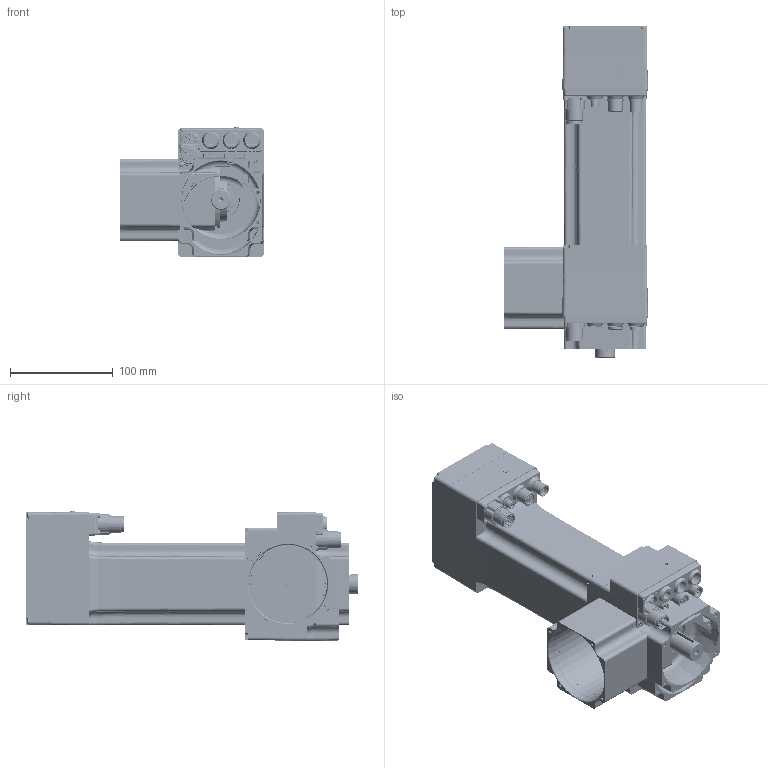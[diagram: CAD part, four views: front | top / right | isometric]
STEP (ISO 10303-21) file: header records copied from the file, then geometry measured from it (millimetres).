
FILE_DESCRIPTION( ( 'Unknown' ), '1' );
FILE_NAME( 'C:/Users/dotti/Desktop/Q0B220/Q0B220 2,8.stp', 'Unknown', ( 'Unknown' ), ( 'Unknown' ), 'PSStep 14.0', 'Unknown', ' ' );
FILE_SCHEMA( ( 'AUTOMOTIVE_DESIGN { 1 0 10303 214 1 1 1 1 }' ) );
Length unit declared in the file: millimetre
Products named in the file (50): Assem1; T00273; 005117000974; N54236; CN M23 PAN-POT BEGA 906 4+5p; VECST-8112 M  2,5 x 12; 005117000476; G00030; N33250; LI-PIA   6x6 x 30; LI-PIA   5x5 x 18; CUSC_20_42_12_6004_ZZ; CUSC_15_32_9_6002_ZZ; a-ela  20; Anello-elastico-chiuso  42; N09284; Anello-elastico-chiuso  32; 003155001098; Vite a brugola testa cil 8,8 -  M  3 x 25; Vite a brugola testa cil 8,8 -  M  3 x 25-oa0; Vite a brugola testa cil 8,8 -  M  3 x 25-oa1; Vite a brugola testa cil 8,8 -  M  3 x 25-oa2; Vite a brugola testa cil 8,8 -  M  3 x 40; Vite a brugola testa cil 8,8 -  M  3 x 40-oa3; Vite a brugola testa cil 8,8 -  M  3 x 40-oa4; Vite a brugola testa cil 8,8 -  M  3 x 40-oa5; Vite a brugola testa cil 8,8 -  M  3 x 40-oa6; Vite a brugola testa cil 8,8 -  M  3 x 40-oa7; Vite a brugola testa cil 8,8 -  M  3 x 40-oa8; Vite a brugola testa cil 8,8 -  M  3 x 40-oa9; N35217; VECST-8112 M  3 x 25; 003016000054; N01399; N54239
Bounding box: 139.5 x 322.64 x 126.21 mm (x, y, z)
Volume: 1339032.3 mm3; surface area: 649413.7 mm2
Topology: 112 solids, 116 shells, 7693 faces, 20767 edges, 13615 vertices
Faces by surface type: plane 4189, cylinder 2627, cone 308, bspline 283, torus 233, sphere 53
Full cylindrical faces by diameter (mm): 1 x39, 1.5 x42, 1.7 x30, 2 x4, 2.4 x24, 2.459 x62, 2.5 x17, 2.7 x12, 3 x29, 3.242 x4, 3.5 x48, 4 x5, 4.2 x2, 4.917 x2, 5 x11, 5.5 x26, 6 x34, 8 x17, 8.5 x9, 8.75 x3, 9 x6, 10 x3, 11 x15, 11.9 x6, 12 x11, 14 x8, 14.4 x3, 14.5 x3, 15 x4, 15.001 x2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
Entity records: 110292 total; most frequent: CARTESIAN_POINT 28003, DIRECTION 13965, ORIENTED_EDGE 13924, EDGE_CURVE 6962, AXIS2_PLACEMENT_3D 5050, VERTEX_POINT 4783, LINE 3865, VECTOR 3865
